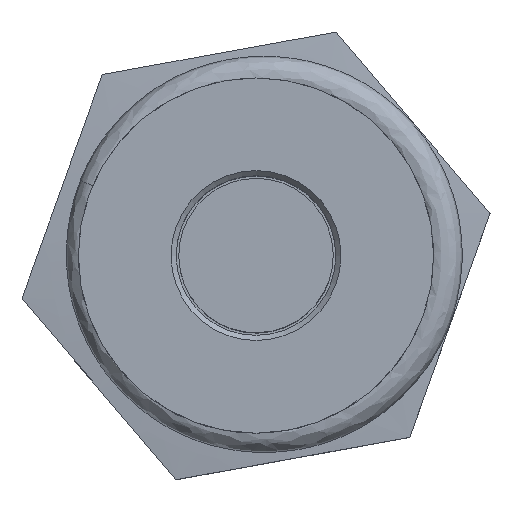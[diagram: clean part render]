
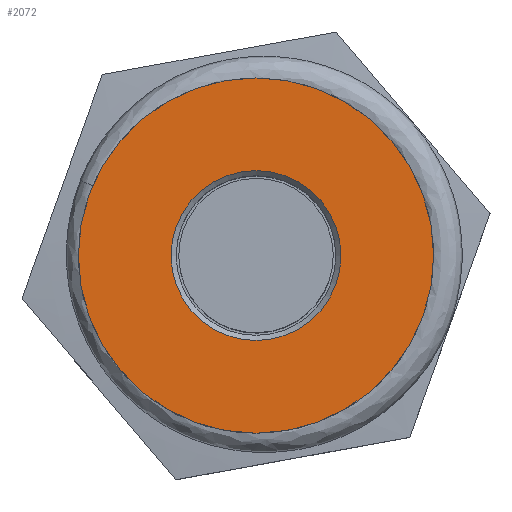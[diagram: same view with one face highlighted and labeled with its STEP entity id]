
A CAD part, top view. The second image highlights one B-rep face of the part: STEP entity #2072.
In plain terms, the highlighted planar face has unit normal (0, 0, 1).
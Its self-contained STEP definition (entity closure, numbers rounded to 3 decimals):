
#780=ORIENTED_EDGE('',*,*,#1164,.T.);
#781=ORIENTED_EDGE('',*,*,#1165,.F.);
#1164=EDGE_CURVE('',#1387,#1387,#1527,.T.);
#1165=EDGE_CURVE('',#1388,#1388,#1528,.T.);
#1387=VERTEX_POINT('',#3541);
#1388=VERTEX_POINT('',#3543);
#1527=CIRCLE('',#2308,1.65);
#1528=CIRCLE('',#2309,3.45);
#1644=EDGE_LOOP('',(#780));
#1645=EDGE_LOOP('',(#781));
#1826=FACE_BOUND('',#1644,.T.);
#1827=FACE_BOUND('',#1645,.T.);
#1963=PLANE('',#2307);
#2072=ADVANCED_FACE('',(#1826,#1827),#1963,.F.);
#2307=AXIS2_PLACEMENT_3D('',#3539,#2757,#2758);
#2308=AXIS2_PLACEMENT_3D('',#3540,#2759,#2760);
#2309=AXIS2_PLACEMENT_3D('',#3542,#2761,#2762);
#2757=DIRECTION('',(0.,0.,-1.));
#2758=DIRECTION('',(-1.,0.,0.));
#2759=DIRECTION('',(0.,0.,-1.));
#2760=DIRECTION('',(-1.,0.,0.));
#2761=DIRECTION('',(0.,0.,-1.));
#2762=DIRECTION('',(0.,1.,0.));
#3539=CARTESIAN_POINT('',(0.,0.,10.25));
#3540=CARTESIAN_POINT('',(0.,0.,10.25));
#3541=CARTESIAN_POINT('',(-1.65,0.,10.25));
#3542=CARTESIAN_POINT('',(0.,0.,10.25));
#3543=CARTESIAN_POINT('',(0.,3.45,10.25));
